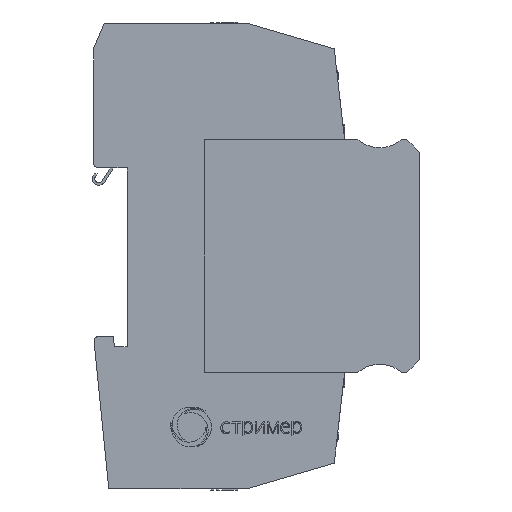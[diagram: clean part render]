
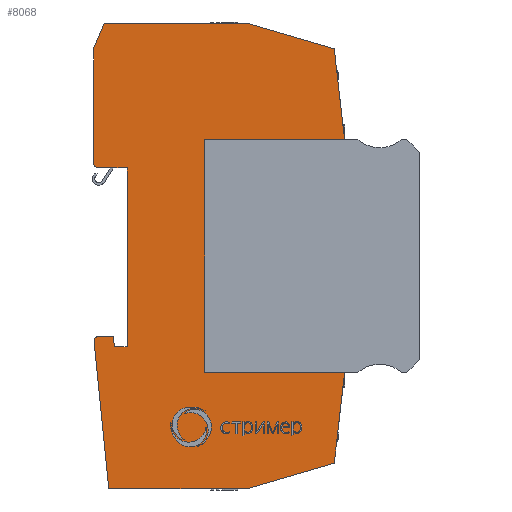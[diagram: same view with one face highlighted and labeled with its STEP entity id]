
A CAD part, front view. The second image highlights one B-rep face of the part: STEP entity #8068.
In plain terms, the highlighted planar face has unit normal (0, -1, 0).
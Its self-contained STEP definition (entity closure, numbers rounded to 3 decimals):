
#6919=CARTESIAN_POINT('',(42.,-6.,-22.5));
#6920=VERTEX_POINT('',#6919);
#6999=CARTESIAN_POINT('',(15.,-6.,-22.5));
#7000=VERTEX_POINT('',#6999);
#7007=CARTESIAN_POINT('',(42.,-6.,-22.5));
#7008=DIRECTION('',(-1.,0.,0.));
#7009=VECTOR('',#7008,27.);
#7010=LINE('',#7007,#7009);
#7011=EDGE_CURVE('',#6920,#7000,#7010,.T.);
#7087=CARTESIAN_POINT('',(42.,-6.,22.5));
#7088=VERTEX_POINT('',#7087);
#7095=CARTESIAN_POINT('',(15.,-6.,22.5));
#7096=VERTEX_POINT('',#7095);
#7097=CARTESIAN_POINT('',(15.,-6.,22.5));
#7098=DIRECTION('',(1.,-0.,-0.));
#7099=VECTOR('',#7098,27.);
#7100=LINE('',#7097,#7099);
#7101=EDGE_CURVE('',#7096,#7088,#7100,.T.);
#7169=CARTESIAN_POINT('',(-4.45,-6.,45.));
#7170=VERTEX_POINT('',#7169);
#7177=CARTESIAN_POINT('',(23.,-6.,45.));
#7178=VERTEX_POINT('',#7177);
#7179=CARTESIAN_POINT('',(23.,-6.,45.));
#7180=DIRECTION('',(-1.,0.,0.));
#7181=VECTOR('',#7180,27.45);
#7182=LINE('',#7179,#7181);
#7183=EDGE_CURVE('',#7178,#7170,#7182,.T.);
#7283=CARTESIAN_POINT('',(-3.56,-6.,-45.));
#7284=VERTEX_POINT('',#7283);
#7285=CARTESIAN_POINT('',(23.,-6.,-45.));
#7286=VERTEX_POINT('',#7285);
#7287=CARTESIAN_POINT('',(-3.56,-6.,-45.));
#7288=DIRECTION('',(1.,-0.,-0.));
#7289=VECTOR('',#7288,26.56);
#7290=LINE('',#7287,#7289);
#7291=EDGE_CURVE('',#7284,#7286,#7290,.T.);
#7405=CARTESIAN_POINT('',(40.,-6.,-40.));
#7406=VERTEX_POINT('',#7405);
#7413=CARTESIAN_POINT('',(23.,-6.,-45.));
#7414=DIRECTION('',(0.959,-0.,0.282));
#7415=VECTOR('',#7414,17.72);
#7416=LINE('',#7413,#7415);
#7417=EDGE_CURVE('',#7286,#7406,#7416,.T.);
#7444=CARTESIAN_POINT('',(40.,-6.,40.));
#7445=VERTEX_POINT('',#7444);
#7446=CARTESIAN_POINT('',(40.,-6.,40.));
#7447=DIRECTION('',(-0.959,0.,0.282));
#7448=VECTOR('',#7447,17.72);
#7449=LINE('',#7446,#7448);
#7450=EDGE_CURVE('',#7445,#7178,#7449,.T.);
#7490=CARTESIAN_POINT('',(40.,-6.,-40.));
#7491=DIRECTION('',(0.114,-0.,0.994));
#7492=VECTOR('',#7491,17.614);
#7493=LINE('',#7490,#7492);
#7494=EDGE_CURVE('',#7406,#6920,#7493,.T.);
#7593=CARTESIAN_POINT('',(15.,-6.,-22.5));
#7594=DIRECTION('',(0.,-0.,1.));
#7595=VECTOR('',#7594,45.);
#7596=LINE('',#7593,#7595);
#7597=EDGE_CURVE('',#7000,#7096,#7596,.T.);
#7645=CARTESIAN_POINT('',(42.,-6.,22.5));
#7646=DIRECTION('',(-0.114,-0.,0.994));
#7647=VECTOR('',#7646,17.614);
#7648=LINE('',#7645,#7647);
#7649=EDGE_CURVE('',#7088,#7445,#7648,.T.);
#7727=CARTESIAN_POINT('',(-6.5,-6.,40.));
#7728=VERTEX_POINT('',#7727);
#7729=CARTESIAN_POINT('',(-6.5,-6.,18.));
#7730=VERTEX_POINT('',#7729);
#7731=CARTESIAN_POINT('',(-6.5,-6.,40.));
#7732=DIRECTION('',(-0.,0.,-1.));
#7733=VECTOR('',#7732,22.);
#7734=LINE('',#7731,#7733);
#7735=EDGE_CURVE('',#7728,#7730,#7734,.T.);
#7767=CARTESIAN_POINT('',(-5.5,-6.,17.));
#7768=VERTEX_POINT('',#7767);
#7769=CARTESIAN_POINT('',(-5.5,-6.,18.));
#7770=DIRECTION('',(-0.,-1.,-0.));
#7771=DIRECTION('',(0.,0.,-1.));
#7772=AXIS2_PLACEMENT_3D('',#7769,#7770,#7771);
#7773=CIRCLE('',#7772,1.);
#7774=EDGE_CURVE('',#7730,#7768,#7773,.T.);
#7800=CARTESIAN_POINT('',(-0.,-6.,17.));
#7801=VERTEX_POINT('',#7800);
#7802=CARTESIAN_POINT('',(-5.5,-6.,17.));
#7803=DIRECTION('',(1.,-0.,-0.));
#7804=VECTOR('',#7803,5.5);
#7805=LINE('',#7802,#7804);
#7806=EDGE_CURVE('',#7768,#7801,#7805,.T.);
#7831=CARTESIAN_POINT('',(-0.,-6.,-17.5));
#7832=VERTEX_POINT('',#7831);
#7833=CARTESIAN_POINT('',(-0.,-6.,17.));
#7834=DIRECTION('',(-0.,0.,-1.));
#7835=VECTOR('',#7834,34.5);
#7836=LINE('',#7833,#7835);
#7837=EDGE_CURVE('',#7801,#7832,#7836,.T.);
#7862=CARTESIAN_POINT('',(-2.481,-6.,-17.5));
#7863=VERTEX_POINT('',#7862);
#7864=CARTESIAN_POINT('',(-0.,-6.,-17.5));
#7865=DIRECTION('',(-1.,0.,0.));
#7866=VECTOR('',#7865,2.481);
#7867=LINE('',#7864,#7866);
#7868=EDGE_CURVE('',#7832,#7863,#7867,.T.);
#7893=CARTESIAN_POINT('',(-2.68,-6.,-15.5));
#7894=VERTEX_POINT('',#7893);
#7895=CARTESIAN_POINT('',(-2.481,-6.,-17.5));
#7896=DIRECTION('',(-0.099,-0.,0.995));
#7897=VECTOR('',#7896,2.01);
#7898=LINE('',#7895,#7897);
#7899=EDGE_CURVE('',#7863,#7894,#7898,.T.);
#7924=CARTESIAN_POINT('',(-5.395,-6.,-15.5));
#7925=VERTEX_POINT('',#7924);
#7926=CARTESIAN_POINT('',(-2.68,-6.,-15.5));
#7927=DIRECTION('',(-1.,0.,0.));
#7928=VECTOR('',#7927,2.715);
#7929=LINE('',#7926,#7928);
#7930=EDGE_CURVE('',#7894,#7925,#7929,.T.);
#7955=CARTESIAN_POINT('',(-6.39,-6.,-16.599));
#7956=VERTEX_POINT('',#7955);
#7957=CARTESIAN_POINT('',(-5.395,-6.,-16.5));
#7958=DIRECTION('',(-0.,-1.,-0.));
#7959=DIRECTION('',(0.,0.,-1.));
#7960=AXIS2_PLACEMENT_3D('',#7957,#7958,#7959);
#7961=CIRCLE('',#7960,1.);
#7962=EDGE_CURVE('',#7925,#7956,#7961,.T.);
#7988=CARTESIAN_POINT('',(-6.39,-6.,-16.599));
#7989=DIRECTION('',(0.099,0.,-0.995));
#7990=VECTOR('',#7989,28.542);
#7991=LINE('',#7988,#7990);
#7992=EDGE_CURVE('',#7956,#7284,#7991,.T.);
#8037=CARTESIAN_POINT('',(-0.,-6.,-0.));
#8038=DIRECTION('',(-0.,-1.,-0.));
#8039=DIRECTION('',(0.,-0.,1.));
#8040=AXIS2_PLACEMENT_3D('',#8037,#8038,#8039);
#8041=PLANE('',#8040);
#8042=ORIENTED_EDGE('',*,*,#7183,.T.);
#8043=CARTESIAN_POINT('',(-4.45,-6.,45.));
#8044=DIRECTION('',(-0.379,0.,-0.925));
#8045=VECTOR('',#8044,5.404);
#8046=LINE('',#8043,#8045);
#8047=EDGE_CURVE('',#7170,#7728,#8046,.T.);
#8048=ORIENTED_EDGE('',*,*,#8047,.T.);
#8049=ORIENTED_EDGE('',*,*,#7735,.T.);
#8050=ORIENTED_EDGE('',*,*,#7774,.T.);
#8051=ORIENTED_EDGE('',*,*,#7806,.T.);
#8052=ORIENTED_EDGE('',*,*,#7837,.T.);
#8053=ORIENTED_EDGE('',*,*,#7868,.T.);
#8054=ORIENTED_EDGE('',*,*,#7899,.T.);
#8055=ORIENTED_EDGE('',*,*,#7930,.T.);
#8056=ORIENTED_EDGE('',*,*,#7962,.T.);
#8057=ORIENTED_EDGE('',*,*,#7992,.T.);
#8058=ORIENTED_EDGE('',*,*,#7291,.T.);
#8059=ORIENTED_EDGE('',*,*,#7417,.T.);
#8060=ORIENTED_EDGE('',*,*,#7494,.T.);
#8061=ORIENTED_EDGE('',*,*,#7011,.T.);
#8062=ORIENTED_EDGE('',*,*,#7597,.T.);
#8063=ORIENTED_EDGE('',*,*,#7101,.T.);
#8064=ORIENTED_EDGE('',*,*,#7649,.T.);
#8065=ORIENTED_EDGE('',*,*,#7450,.T.);
#8066=EDGE_LOOP('',(#8042,#8048,#8049,#8050,#8051,#8052,#8053,#8054,#8055,#8056,#8057,#8058,#8059,#8060,#8061,#8062,#8063,#8064,#8065));
#8067=FACE_BOUND('',#8066,.T.);
#8068=ADVANCED_FACE('',(#8067),#8041,.T.);
